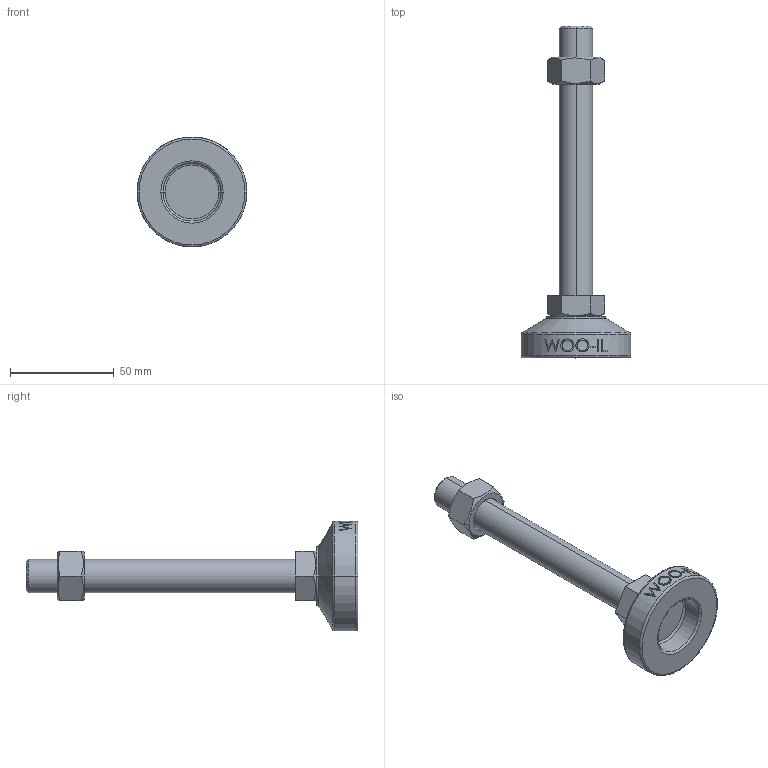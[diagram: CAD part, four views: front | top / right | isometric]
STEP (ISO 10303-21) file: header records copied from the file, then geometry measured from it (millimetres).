
FILE_DESCRIPTION (( 'STEP AP214' ), '1' );
FILE_NAME ('MFZ53-M16-130.step', '2021-01-15T07:04:27', ( '' ), ( '' ), 'SwSTEP 2.0', 'SolidWorks 2019', '' );
FILE_SCHEMA (( 'AUTOMOTIVE_DESIGN' ));
Length unit declared in the file: millimetre
Products named in the file (2): MFZ53-M16-130
Bounding box: 53 x 160 x 53 mm (x, y, z)
Volume: 64913.6 mm3; surface area: 18022.4 mm2
Topology: 3 solids, 3 shells, 106 faces, 243 edges, 154 vertices
Faces by surface type: plane 48, cylinder 18, bspline 16, cone 14, torus 10
Entity records: 4508 total; most frequent: CARTESIAN_POINT 2165, ORIENTED_EDGE 486, DIRECTION 439, EDGE_CURVE 243, AXIS2_PLACEMENT_3D 170, VERTEX_POINT 154, EDGE_LOOP 119, FACE_OUTER_BOUND 106
